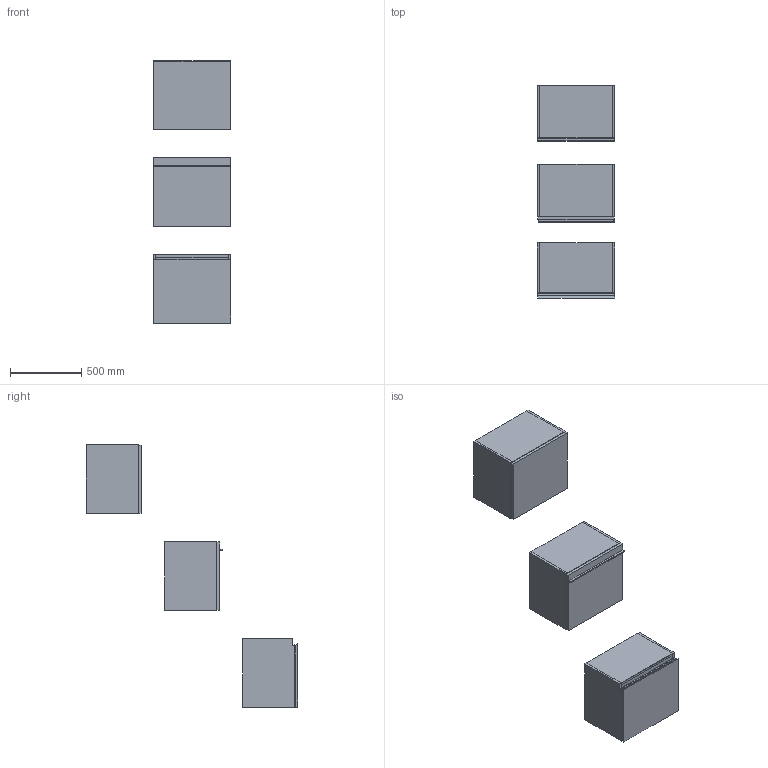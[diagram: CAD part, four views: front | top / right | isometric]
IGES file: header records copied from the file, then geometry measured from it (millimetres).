
Start section: Data from Parasolid IGES Translator 19.0.9, Copyright(c) 2006 Siemens PL M Software. All Rights Reserved.
Global section: file name: noorth-SI-H 48 D 38,8 W 54_8403.igs; native system: By Siemens PLM Incorporated; preprocessor: XPlus GENERIC/IGES 19.0.9; author: Noname; organization: Noname; date: 20200601.102415; units: metre
Bounding box: 540 x 1485.1 x 1840.01 mm (x, y, z)
Volume: 50828281.4 mm3; surface area: 7726211.3 mm2
Topology: 20 solids, 20 shells, 178 faces, 382 edges, 234 vertices
Faces by surface type: plane 134, extrusion 16, bspline 16, cylinder 12
